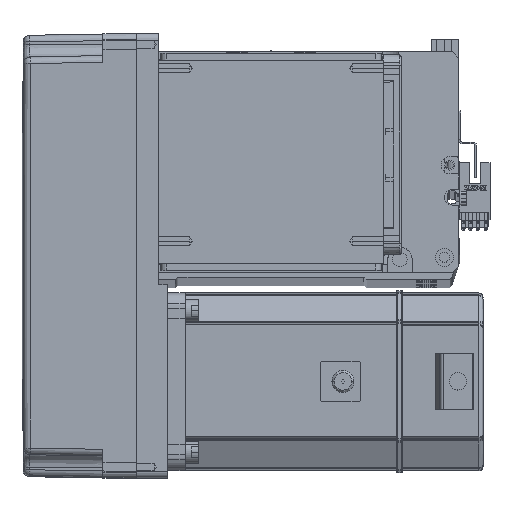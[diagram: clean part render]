
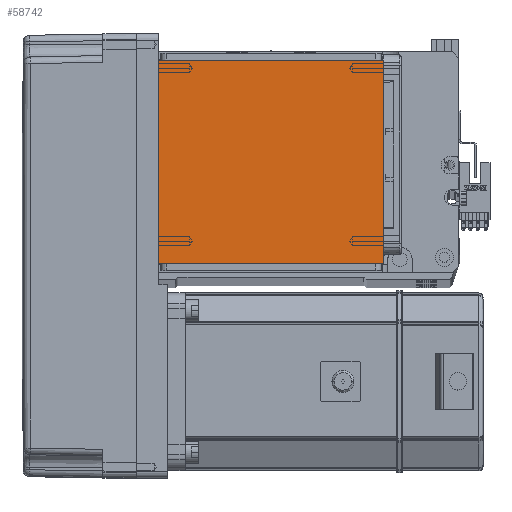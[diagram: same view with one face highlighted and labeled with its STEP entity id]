
A CAD part, top view. The second image highlights one B-rep face of the part: STEP entity #58742.
In plain terms, the highlighted planar face has unit normal (0, 0, 1).
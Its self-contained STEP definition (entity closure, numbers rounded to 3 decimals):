
#1114 = VERTEX_POINT ( 'NONE', #32678 ) ;
#4250 = DIRECTION ( 'NONE',  ( 1., 0., 0. ) ) ;
#7278 = LINE ( 'NONE', #46725, #17129 ) ;
#8787 = ORIENTED_EDGE ( 'NONE', *, *, #32578, .F. ) ;
#10766 = FACE_OUTER_BOUND ( 'NONE', #31441, .T. ) ;
#11235 = CARTESIAN_POINT ( 'NONE',  ( 50.5, 122., 115. ) ) ;
#11276 = VECTOR ( 'NONE', #4250, 1000. ) ;
#11286 = VECTOR ( 'NONE', #15661, 1000. ) ;
#12892 = VERTEX_POINT ( 'NONE', #59237 ) ;
#12976 = CARTESIAN_POINT ( 'NONE',  ( -50.5, 111.5, 115. ) ) ;
#13665 = VECTOR ( 'NONE', #30784, 1000. ) ;
#14544 = VERTEX_POINT ( 'NONE', #36126 ) ;
#15661 = DIRECTION ( 'NONE',  ( 0., 1., 0. ) ) ;
#15943 = DIRECTION ( 'NONE',  ( 0., 0., 1. ) ) ;
#17129 = VECTOR ( 'NONE', #60504, 1000. ) ;
#22085 = EDGE_CURVE ( 'NONE', #12892, #1114, #7278, .T. ) ;
#25826 = PLANE ( 'NONE',  #40375 ) ;
#25943 = CARTESIAN_POINT ( 'NONE',  ( -50.5, 122., 115. ) ) ;
#30055 = CARTESIAN_POINT ( 'NONE',  ( 0., 0., 115. ) ) ;
#30784 = DIRECTION ( 'NONE',  ( 0., -1., 0. ) ) ;
#30890 = DIRECTION ( 'NONE',  ( 1., 0., 0. ) ) ;
#31441 = EDGE_LOOP ( 'NONE', ( #8787, #32280, #42238, #55312 ) ) ;
#32280 = ORIENTED_EDGE ( 'NONE', *, *, #51905, .T. ) ;
#32578 = EDGE_CURVE ( 'NONE', #48864, #14544, #48990, .T. ) ;
#32678 = CARTESIAN_POINT ( 'NONE',  ( -50.5, 20., 115. ) ) ;
#32765 = CARTESIAN_POINT ( 'NONE',  ( -70.004, 111.5, 115. ) ) ;
#36126 = CARTESIAN_POINT ( 'NONE',  ( 50.5, 111.5, 115. ) ) ;
#36938 = LINE ( 'NONE', #11235, #11286 ) ;
#40375 = AXIS2_PLACEMENT_3D ( 'NONE', #30055, #15943, #30890 ) ;
#42238 = ORIENTED_EDGE ( 'NONE', *, *, #22085, .F. ) ;
#46725 = CARTESIAN_POINT ( 'NONE',  ( -70.004, 20., 115. ) ) ;
#48864 = VERTEX_POINT ( 'NONE', #12976 ) ;
#48990 = LINE ( 'NONE', #32765, #11276 ) ;
#50682 = LINE ( 'NONE', #25943, #13665 ) ;
#51905 = EDGE_CURVE ( 'NONE', #48864, #1114, #50682, .T. ) ;
#54899 = EDGE_CURVE ( 'NONE', #12892, #14544, #36938, .T. ) ;
#55312 = ORIENTED_EDGE ( 'NONE', *, *, #54899, .T. ) ;
#58742 = ADVANCED_FACE ( 'NONE', ( #10766 ), #25826, .T. ) ;
#59237 = CARTESIAN_POINT ( 'NONE',  ( 50.5, 20., 115. ) ) ;
#60504 = DIRECTION ( 'NONE',  ( -1., 0., 0. ) ) ;
